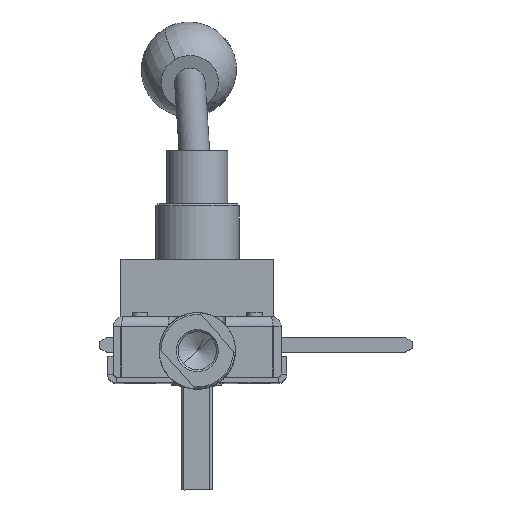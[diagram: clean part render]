
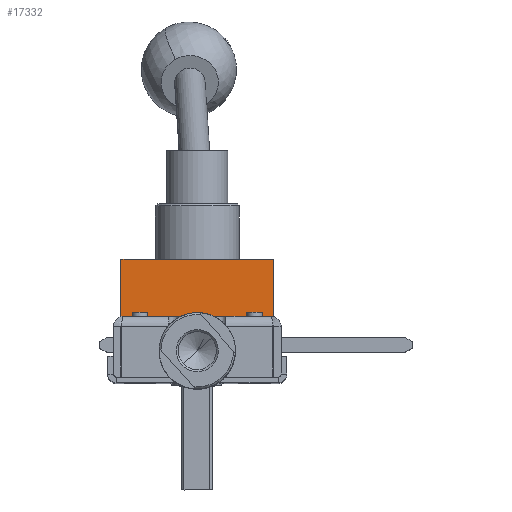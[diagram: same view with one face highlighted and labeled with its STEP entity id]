
A CAD part, top view. The second image highlights one B-rep face of the part: STEP entity #17332.
In plain terms, the highlighted planar face has unit normal (0, 0, 1) as drawn and (0, -1, 0) by its records, which use the part's own axes.
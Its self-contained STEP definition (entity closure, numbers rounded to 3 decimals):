
#539 = DIRECTION ( 'NONE',  ( 0., 0., 1. ) ) ;
#1807 = CARTESIAN_POINT ( 'NONE',  ( -20., -40., 7.5 ) ) ;
#2678 = DIRECTION ( 'NONE',  ( 0., 0., -1. ) ) ;
#6486 = EDGE_CURVE ( 'NONE', #17655, #49082, #7652, .T. ) ;
#7222 = VECTOR ( 'NONE', #2678, 1000. ) ;
#7652 = LINE ( 'NONE', #23707, #25335 ) ;
#10314 = CARTESIAN_POINT ( 'NONE',  ( -20., -40., -7.5 ) ) ;
#13275 = VERTEX_POINT ( 'NONE', #16641 ) ;
#13852 = VECTOR ( 'NONE', #20658, 1000. ) ;
#14118 = DIRECTION ( 'NONE',  ( 1., 0., 0. ) ) ;
#14388 = FACE_OUTER_BOUND ( 'NONE', #39763, .T. ) ;
#14509 = CARTESIAN_POINT ( 'NONE',  ( 20., -40., -7.5 ) ) ;
#16641 = CARTESIAN_POINT ( 'NONE',  ( -20., -40., 7.5 ) ) ;
#17332 = ADVANCED_FACE ( 'NONE', ( #14388 ), #42033, .F. ) ;
#17655 = VERTEX_POINT ( 'NONE', #32467 ) ;
#17751 = EDGE_CURVE ( 'NONE', #13275, #18489, #47482, .T. ) ;
#18489 = VERTEX_POINT ( 'NONE', #40488 ) ;
#19420 = CARTESIAN_POINT ( 'NONE',  ( -20., -40., 7.5 ) ) ;
#19833 = EDGE_CURVE ( 'NONE', #18489, #49082, #41323, .T. ) ;
#20658 = DIRECTION ( 'NONE',  ( 1., 0., 0. ) ) ;
#20996 = ORIENTED_EDGE ( 'NONE', *, *, #30979, .F. ) ;
#23166 = DIRECTION ( 'NONE',  ( 0., 1., 0. ) ) ;
#23707 = CARTESIAN_POINT ( 'NONE',  ( 20., -40., 7.5 ) ) ;
#25335 = VECTOR ( 'NONE', #27542, 1000. ) ;
#27542 = DIRECTION ( 'NONE',  ( 0., 0., -1. ) ) ;
#28840 = AXIS2_PLACEMENT_3D ( 'NONE', #19420, #23166, #539 ) ;
#28914 = VECTOR ( 'NONE', #14118, 1000. ) ;
#29108 = CARTESIAN_POINT ( 'NONE',  ( -20., -40., 7.5 ) ) ;
#30979 = EDGE_CURVE ( 'NONE', #13275, #17655, #33935, .T. ) ;
#32467 = CARTESIAN_POINT ( 'NONE',  ( 20., -40., 7.5 ) ) ;
#33935 = LINE ( 'NONE', #1807, #13852 ) ;
#39763 = EDGE_LOOP ( 'NONE', ( #40753, #45868, #20996, #45101 ) ) ;
#40488 = CARTESIAN_POINT ( 'NONE',  ( -20., -40., -7.5 ) ) ;
#40753 = ORIENTED_EDGE ( 'NONE', *, *, #19833, .T. ) ;
#41323 = LINE ( 'NONE', #10314, #28914 ) ;
#42033 = PLANE ( 'NONE',  #28840 ) ;
#45101 = ORIENTED_EDGE ( 'NONE', *, *, #17751, .T. ) ;
#45868 = ORIENTED_EDGE ( 'NONE', *, *, #6486, .F. ) ;
#47482 = LINE ( 'NONE', #29108, #7222 ) ;
#49082 = VERTEX_POINT ( 'NONE', #14509 ) ;
